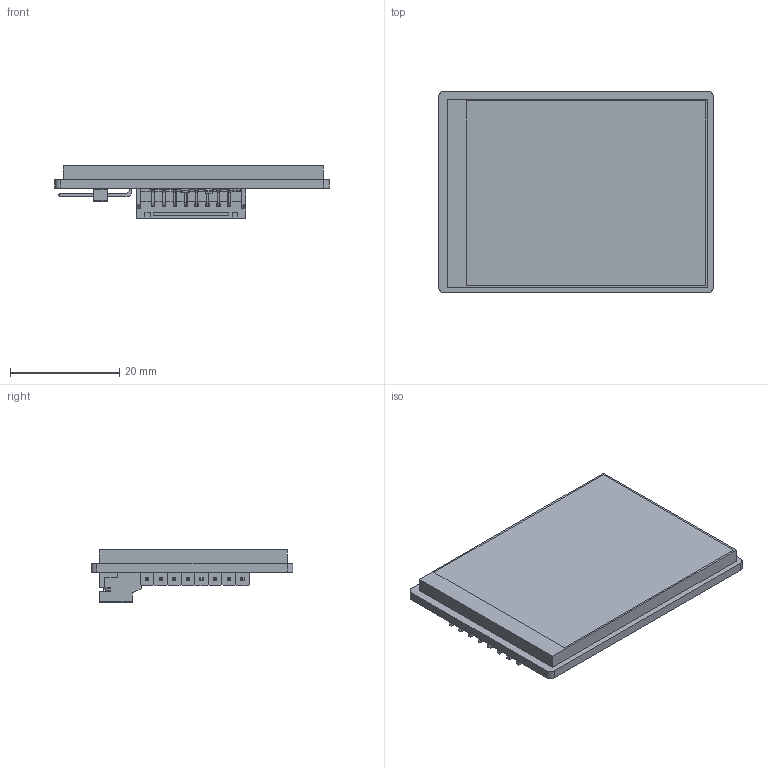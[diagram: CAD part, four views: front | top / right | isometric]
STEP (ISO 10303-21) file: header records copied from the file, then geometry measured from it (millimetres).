
FILE_DESCRIPTION(/* description */ (''),/* implementation_level */ '2;1');
FILE_NAME(/* name */ '2inch LCD-B V2.2_step.prt.stp',/* time_stamp */ '2025-08-19T10:26:22+08:00',/* author */ (''),/* organization */ (''),/* preprocessor_version */ 'ST-DEVELOPER v16.7',/* originating_system */ 'SIEMENS PLM Software NX 12.0',/* authorisation */ '');
FILE_SCHEMA (('AUTOMOTIVE_DESIGN { 1 0 10303 214 3 1 1 1 }'));
Products named in the file (30): 3_1_2_3_4_5_600; 2_1_2_3_4_5_600; 1_1_2_3_4_5_6_A; PH2_0_SMD-W__1_2_30004; LOGO_44629; R_060339165; LOGO_0.15; SOT23-3_引脚; SOT23-327188; C_06033639; LOGO_; ABAN1; Apiangmu; Apaizhen1; R_0603; R3; R2; R1; SOT23-3; Q1; PH2_0_SMD-W-8P-8268_AF0_ASM; PH2_0_SMD-W-8P-13506_AF0_ASM; PH2.0_SMD-W-8P; Designator10; PH2_0-8PWB; J2; C_0603; C1; Board; 2inch LCD-B V2.2_step
Assembly tree (40 placements, depth 8):
  2inch LCD-B V2.2_step
    Board
      ABAN1
    C1
      C_0603
        LOGO_
        C_06033639
    J2
      PH2_0-8PWB
        Designator10
          PH2.0_SMD-W-8P
            PH2_0_SMD-W-8P-13506_AF0_ASM
              PH2_0_SMD-W-8P-8268_AF0_ASM
                1_1_2_3_4_5_6_A
                2_1_2_3_4_5_600
                3_1_2_3_4_5_600
              PH2_0_SMD-W__1_2_30004  x8
    Q1
      SOT23-3
        SOT23-327188
        SOT23-3_引脚  x3
        LOGO_0.15
    R1
      R_0603
        R_060339165
        LOGO_44629
    R2
      R_0603
        R_060339165
        LOGO_44629
    R3
      R_0603
        R_060339165
        LOGO_44629
    Apaizhen1
    Apiangmu
Bounding box: 50.3 x 37 x 9.6 mm (x, y, z)
Volume: 11191.5 mm3; surface area: 12678.7 mm2
Topology: 116 solids, 116 shells, 2331 faces, 5747 edges, 3692 vertices
Faces by surface type: plane 1364, bspline 439, cylinder 408, torus 88, sphere 32
Full cylindrical faces by diameter (mm): 3 x4
Entity records: 59386 total; most frequent: CARTESIAN_POINT 19506, ORIENTED_EDGE 7308, DIRECTION 5722, EDGE_CURVE 3654, LINE 2718, VECTOR 2718, VERTEX_POINT 2382, EDGE_LOOP 1582
